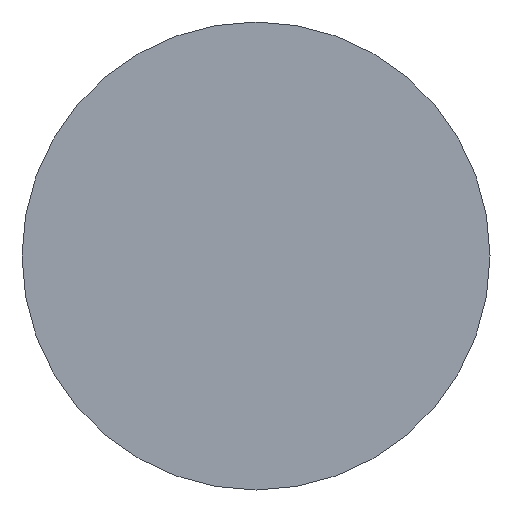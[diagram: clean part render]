
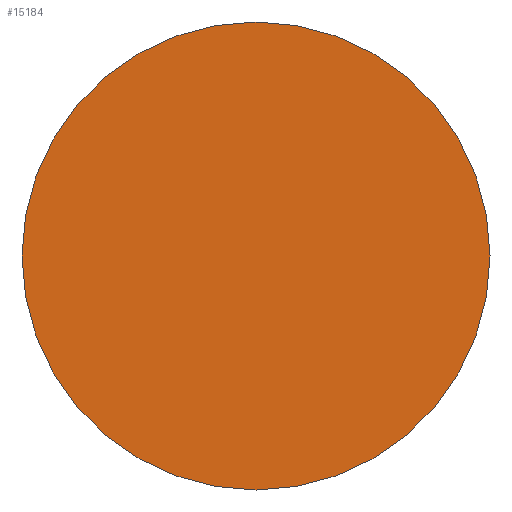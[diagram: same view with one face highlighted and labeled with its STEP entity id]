
A CAD part, front view. The second image highlights one B-rep face of the part: STEP entity #15184.
In plain terms, the highlighted planar face has unit normal (0, -1, 0).
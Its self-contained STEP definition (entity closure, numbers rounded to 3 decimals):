
#3929 = DIRECTION ( 'NONE',  ( 0., 0., 1. ) ) ;
#3930 = DIRECTION ( 'NONE',  ( 0., 1., 0. ) ) ;
#3931 = CARTESIAN_POINT ( 'NONE',  ( 0., 0., 0. ) ) ;
#3932 = AXIS2_PLACEMENT_3D ( 'NONE', #3931, #3930, #3929 ) ;
#3933 = CIRCLE ( 'NONE', #3932, 29.3 ) ;
#3941 = DIRECTION ( 'NONE',  ( 0., 0., 1. ) ) ;
#3942 = DIRECTION ( 'NONE',  ( 0., 1., 0. ) ) ;
#3943 = CARTESIAN_POINT ( 'NONE',  ( 0., 0., 0. ) ) ;
#3944 = AXIS2_PLACEMENT_3D ( 'NONE', #3943, #3942, #3941 ) ;
#3945 = PLANE ( 'NONE',  #3944 ) ;
#3946 = FACE_OUTER_BOUND ( 'NONE', #15158, .T. ) ;
#5891 = CARTESIAN_POINT ( 'NONE',  ( 0., 0., 29.3 ) ) ;
#5925 = CARTESIAN_POINT ( 'NONE',  ( 0., 0., -29.3 ) ) ;
#5933 = DIRECTION ( 'NONE',  ( 0., 0., 1. ) ) ;
#5934 = DIRECTION ( 'NONE',  ( 0., 1., 0. ) ) ;
#5935 = CARTESIAN_POINT ( 'NONE',  ( 0., 0., 0. ) ) ;
#5936 = AXIS2_PLACEMENT_3D ( 'NONE', #5935, #5934, #5933 ) ;
#5937 = CIRCLE ( 'NONE', #5936, 29.3 ) ;
#15158 = EDGE_LOOP ( 'NONE', ( #15183, #15181 ) ) ;
#15181 = ORIENTED_EDGE ( 'NONE', *, *, #16101, .F. ) ;
#15183 = ORIENTED_EDGE ( 'NONE', *, *, #15194, .F. ) ;
#15184 = ADVANCED_FACE ( 'NONE', ( #3946 ), #3945, .F. ) ;
#15194 = EDGE_CURVE ( 'NONE', #16103, #16095, #3933, .T. ) ;
#16095 = VERTEX_POINT ( 'NONE', #5891 ) ;
#16101 = EDGE_CURVE ( 'NONE', #16095, #16103, #5937, .T. ) ;
#16103 = VERTEX_POINT ( 'NONE', #5925 ) ;
